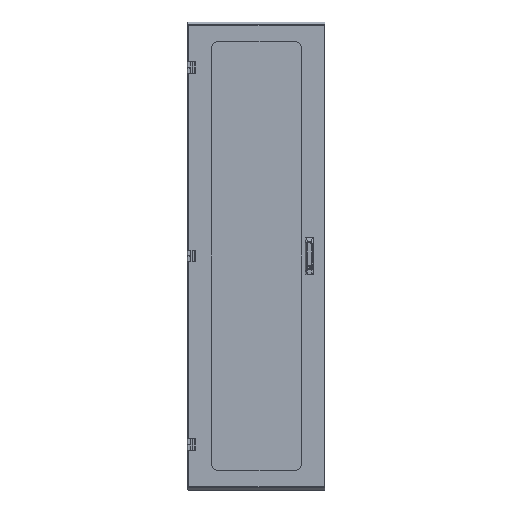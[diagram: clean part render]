
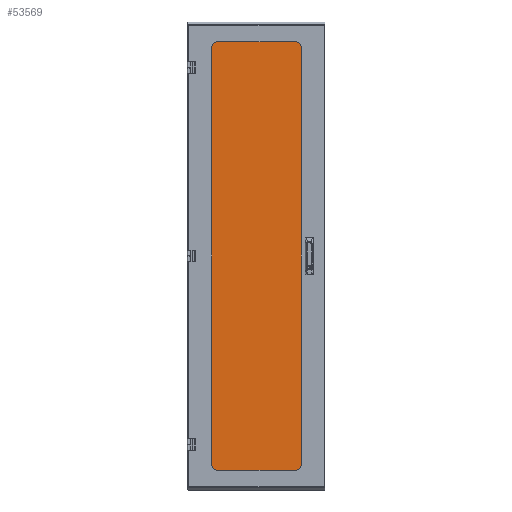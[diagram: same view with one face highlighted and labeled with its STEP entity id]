
A CAD part, front view. The second image highlights one B-rep face of the part: STEP entity #53569.
In plain terms, the highlighted planar face has unit normal (0, -1, 0).
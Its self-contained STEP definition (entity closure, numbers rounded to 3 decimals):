
#8535=ORIENTED_EDGE('',*,*,#22887,.T.);
#8536=ORIENTED_EDGE('',*,*,#22891,.T.);
#8537=ORIENTED_EDGE('',*,*,#22894,.T.);
#8538=ORIENTED_EDGE('',*,*,#22897,.T.);
#22887=EDGE_CURVE('',#30364,#30365,#35523,.T.);
#22891=EDGE_CURVE('',#30365,#30368,#35527,.T.);
#22894=EDGE_CURVE('',#30368,#30370,#35530,.T.);
#22897=EDGE_CURVE('',#30370,#30364,#35533,.T.);
#30364=VERTEX_POINT('',#80040);
#30365=VERTEX_POINT('',#80041);
#30368=VERTEX_POINT('',#80049);
#30370=VERTEX_POINT('',#80055);
#35523=LINE('',#80039,#40320);
#35527=LINE('',#80048,#40324);
#35530=LINE('',#80054,#40327);
#35533=LINE('',#80060,#40330);
#40320=VECTOR('',#64325,1000.);
#40324=VECTOR('',#64331,1000.);
#40327=VECTOR('',#64336,1000.);
#40330=VECTOR('',#64341,1000.);
#44868=EDGE_LOOP('',(#8535,#8536,#8537,#8538));
#48369=FACE_BOUND('',#44868,.T.);
#51521=PLANE('',#57330);
#53569=ADVANCED_FACE('',(#48369),#51521,.T.);
#57330=AXIS2_PLACEMENT_3D('',#80063,#64345,#64346);
#64325=DIRECTION('',(0.,0.,-1.));
#64331=DIRECTION('',(1.,0.,0.));
#64336=DIRECTION('',(0.,0.,1.));
#64341=DIRECTION('',(-1.,0.,0.));
#64345=DIRECTION('',(0.,-1.,0.));
#64346=DIRECTION('',(0.,0.,-1.));
#80039=CARTESIAN_POINT('',(-201.613,0.,925.513));
#80040=CARTESIAN_POINT('',(-201.613,0.,925.513));
#80041=CARTESIAN_POINT('',(-201.613,0.,-925.513));
#80048=CARTESIAN_POINT('',(-201.613,0.,-925.513));
#80049=CARTESIAN_POINT('',(201.613,0.,-925.513));
#80054=CARTESIAN_POINT('',(201.613,0.,-925.513));
#80055=CARTESIAN_POINT('',(201.613,0.,925.513));
#80060=CARTESIAN_POINT('',(201.613,0.,925.513));
#80063=CARTESIAN_POINT('',(-201.613,0.,-925.513));
